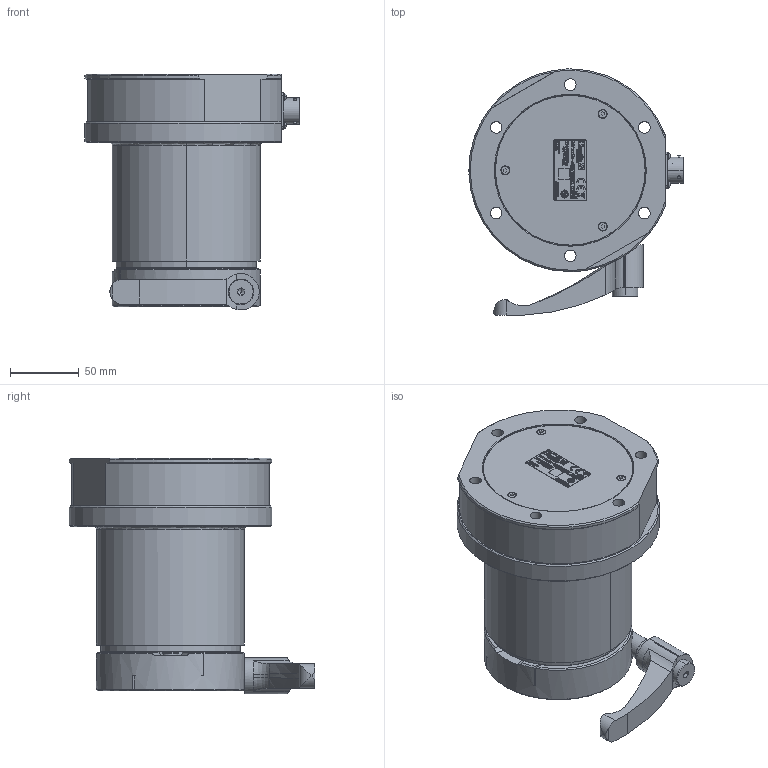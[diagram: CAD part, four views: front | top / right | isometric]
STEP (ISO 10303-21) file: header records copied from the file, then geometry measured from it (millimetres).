
FILE_DESCRIPTION((''),'2;1');
FILE_NAME('6159352270','2018-01-15T',('greextsd'),(''),'CREO PARAMETRIC BY PTC INC, 2017170','CREO PARAMETRIC BY PTC INC, 2017170','');
FILE_SCHEMA(('AUTOMOTIVE_DESIGN { 1 0 10303 214 1 1 1 1 }'));
Length unit declared in the file: millimetre
Products named in the file (1): 6159352270
Bounding box: 156.38 x 179.5 x 172.25 mm (x, y, z)
Volume: 1345112.3 mm3; surface area: 229409 mm2
Topology: 1 solids, 22 shells, 4674 faces, 12565 edges, 8190 vertices
Faces by surface type: plane 2046, extrusion 1586, cylinder 556, cone 433, bspline 24, torus 21, sphere 8
Entity records: 187754 total; most frequent: CARTESIAN_POINT 45659, ORIENTED_EDGE 25034, DIRECTION 17702, EDGE_CURVE 12537, VECTOR 8454, VERTEX_POINT 8190, LINE 6868, B_SPLINE_CURVE_WITH_KNOTS 5696
